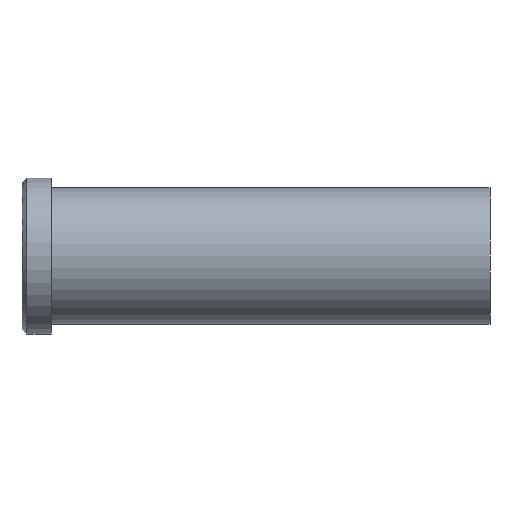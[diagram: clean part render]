
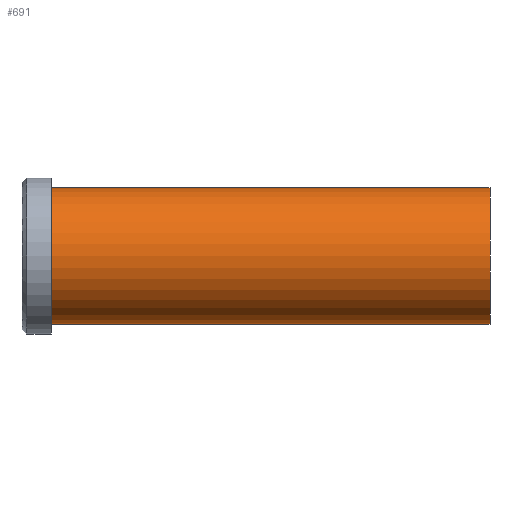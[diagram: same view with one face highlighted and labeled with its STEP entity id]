
A CAD part, front view. The second image highlights one B-rep face of the part: STEP entity #691.
In plain terms, the highlighted cylindrical face has radius 14 mm (diameter 28 mm), a partial arc.
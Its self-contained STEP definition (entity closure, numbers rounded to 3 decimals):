
#501=CARTESIAN_POINT('Vertex',(0.,0.,-14.)) ;
#506=CARTESIAN_POINT('Axis2P3D Location',(0.,0.,0.)) ;
#510=CARTESIAN_POINT('Vertex',(0.,-14.,0.)) ;
#513=CARTESIAN_POINT('Axis2P3D Location',(0.,0.,0.)) ;
#517=CARTESIAN_POINT('Vertex',(0.,0.,14.)) ;
#631=CARTESIAN_POINT('Line Origine',(90.,0.,14.)) ;
#635=CARTESIAN_POINT('Vertex',(90.,0.,14.)) ;
#649=CARTESIAN_POINT('Vertex',(90.,0.,-14.)) ;
#652=CARTESIAN_POINT('Line Origine',(90.,0.,-14.)) ;
#666=CARTESIAN_POINT('Axis2P3D Location',(90.,0.,0.)) ;
#671=CARTESIAN_POINT('Axis2P3D Location',(90.,0.,0.)) ;
#675=CARTESIAN_POINT('Vertex',(90.,-14.,0.)) ;
#678=CARTESIAN_POINT('Axis2P3D Location',(90.,0.,0.)) ;
#507=DIRECTION('Axis2P3D Direction',(1.,0.,-0.)) ;
#514=DIRECTION('Axis2P3D Direction',(1.,0.,-0.)) ;
#632=DIRECTION('Vector Direction',(-1.,0.,0.)) ;
#653=DIRECTION('Vector Direction',(-1.,0.,0.)) ;
#667=DIRECTION('Axis2P3D Direction',(-1.,-0.,-0.)) ;
#668=DIRECTION('Axis2P3D XDirection',(0.,0.,-1.)) ;
#672=DIRECTION('Axis2P3D Direction',(-1.,-0.,-0.)) ;
#679=DIRECTION('Axis2P3D Direction',(-1.,-0.,-0.)) ;
#508=AXIS2_PLACEMENT_3D('Circle Axis2P3D',#506,#507,$) ;
#515=AXIS2_PLACEMENT_3D('Circle Axis2P3D',#513,#514,$) ;
#669=AXIS2_PLACEMENT_3D('Cylinder Axis2P3D',#666,#667,#668) ;
#673=AXIS2_PLACEMENT_3D('Circle Axis2P3D',#671,#672,$) ;
#680=AXIS2_PLACEMENT_3D('Circle Axis2P3D',#678,#679,$) ;
#684=ORIENTED_EDGE('',*,*,#656,.T.) ;
#685=ORIENTED_EDGE('',*,*,#677,.F.) ;
#686=ORIENTED_EDGE('',*,*,#682,.F.) ;
#687=ORIENTED_EDGE('',*,*,#637,.T.) ;
#688=ORIENTED_EDGE('',*,*,#519,.T.) ;
#689=ORIENTED_EDGE('',*,*,#512,.T.) ;
#633=VECTOR('Line Direction',#632,1.) ;
#654=VECTOR('Line Direction',#653,1.) ;
#691=ADVANCED_FACE('353-20X96',(#690),#670,.T.) ;
#509=CIRCLE('generated circle',#508,14.) ;
#516=CIRCLE('generated circle',#515,14.) ;
#674=CIRCLE('generated circle',#673,14.) ;
#681=CIRCLE('generated circle',#680,14.) ;
#670=CYLINDRICAL_SURFACE('generated cylinder',#669,14.) ;
#512=EDGE_CURVE('',#511,#502,#509,.T.) ;
#519=EDGE_CURVE('',#518,#511,#516,.T.) ;
#637=EDGE_CURVE('',#636,#518,#634,.T.) ;
#656=EDGE_CURVE('',#502,#650,#655,.F.) ;
#677=EDGE_CURVE('',#676,#650,#674,.F.) ;
#682=EDGE_CURVE('',#636,#676,#681,.F.) ;
#683=EDGE_LOOP('',(#684,#685,#686,#687,#688,#689)) ;
#690=FACE_OUTER_BOUND('',#683,.T.) ;
#634=LINE('Line',#631,#633) ;
#655=LINE('Line',#652,#654) ;
#502=VERTEX_POINT('',#501) ;
#511=VERTEX_POINT('',#510) ;
#518=VERTEX_POINT('',#517) ;
#636=VERTEX_POINT('',#635) ;
#650=VERTEX_POINT('',#649) ;
#676=VERTEX_POINT('',#675) ;
